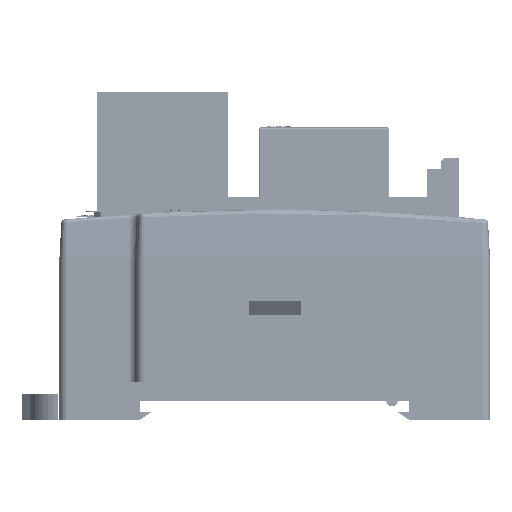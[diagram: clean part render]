
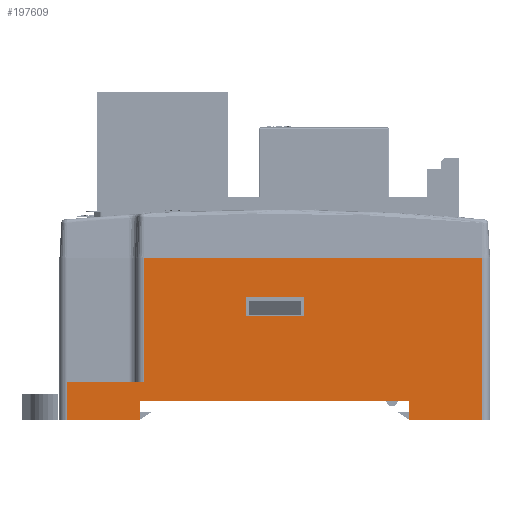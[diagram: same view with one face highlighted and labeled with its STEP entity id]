
A CAD part, front view. The second image highlights one B-rep face of the part: STEP entity #197609.
In plain terms, the highlighted planar face has unit normal (0, -1, 0).
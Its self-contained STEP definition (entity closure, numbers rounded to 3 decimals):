
#14070=DIRECTION('',(0.,0.,-1.));
#14071=VECTOR('',#14070,21.);
#14072=CARTESIAN_POINT('',(27.,-85.,0.));
#14073=LINE('',#14072,#14071);
#14130=DIRECTION('',(0.,0.,-1.));
#14131=VECTOR('',#14130,2.5);
#14132=CARTESIAN_POINT('',(17.5,-85.,-18.5));
#14133=LINE('',#14132,#14131);
#14725=DIRECTION('',(0.,0.,1.));
#14726=VECTOR('',#14725,16.1);
#14727=CARTESIAN_POINT('',(-17.,-85.,-16.1));
#14728=LINE('',#14727,#14726);
#14733=DIRECTION('',(1.,0.,0.));
#14734=VECTOR('',#14733,9.5);
#14735=CARTESIAN_POINT('',(17.5,-85.,-21.));
#14736=LINE('',#14735,#14734);
#14737=DIRECTION('',(1.,0.,0.));
#14738=VECTOR('',#14737,9.5);
#14739=CARTESIAN_POINT('',(-27.,-85.,-21.));
#14740=LINE('',#14739,#14738);
#14745=DIRECTION('',(0.,0.,1.));
#14746=VECTOR('',#14745,2.5);
#14747=CARTESIAN_POINT('',(-3.75,-85.,-7.5));
#14748=LINE('',#14747,#14746);
#14817=DIRECTION('',(1.,0.,0.));
#14818=VECTOR('',#14817,7.5);
#14819=CARTESIAN_POINT('',(-3.75,-85.,-5.));
#14820=LINE('',#14819,#14818);
#14966=DIRECTION('',(0.,0.,-1.));
#14967=VECTOR('',#14966,2.5);
#14968=CARTESIAN_POINT('',(3.75,-85.,-5.));
#14969=LINE('',#14968,#14967);
#14974=DIRECTION('',(-1.,0.,0.));
#14975=VECTOR('',#14974,7.5);
#14976=CARTESIAN_POINT('',(3.75,-85.,-7.5));
#14977=LINE('',#14976,#14975);
#14982=DIRECTION('',(-1.,0.,0.));
#14983=VECTOR('',#14982,35.);
#14984=CARTESIAN_POINT('',(17.5,-85.,-18.5));
#14985=LINE('',#14984,#14983);
#14990=DIRECTION('',(0.,0.,1.));
#14991=VECTOR('',#14990,2.5);
#14992=CARTESIAN_POINT('',(-17.5,-85.,-21.));
#14993=LINE('',#14992,#14991);
#67535=DIRECTION('',(1.,0.,0.));
#67536=VECTOR('',#67535,10.);
#67537=CARTESIAN_POINT('',(-27.,-85.,-16.1));
#67538=LINE('',#67537,#67536);
#67572=DIRECTION('',(0.,0.,1.));
#67573=VECTOR('',#67572,4.9);
#67574=CARTESIAN_POINT('',(-27.,-85.,-21.));
#67575=LINE('',#67574,#67573);
#67665=DIRECTION('',(1.,0.,0.));
#67666=VECTOR('',#67665,44.);
#67667=CARTESIAN_POINT('',(-17.,-85.,0.));
#67668=LINE('',#67667,#67666);
#171263=CARTESIAN_POINT('',(-17.5,-85.,-21.));
#171264=VERTEX_POINT('',#171263);
#171265=CARTESIAN_POINT('',(-27.,-85.,-21.));
#171266=VERTEX_POINT('',#171265);
#171293=CARTESIAN_POINT('',(27.,-85.,-21.));
#171294=VERTEX_POINT('',#171293);
#171295=CARTESIAN_POINT('',(17.5,-85.,-21.));
#171296=VERTEX_POINT('',#171295);
#171365=CARTESIAN_POINT('',(17.5,-85.,-18.5));
#171366=CARTESIAN_POINT('',(-17.5,-85.,-18.5));
#171367=VERTEX_POINT('',#171365);
#171368=VERTEX_POINT('',#171366);
#171369=CARTESIAN_POINT('',(-27.,-85.,-16.1));
#171370=VERTEX_POINT('',#171369);
#171371=CARTESIAN_POINT('',(-17.,-85.,-16.1));
#171372=VERTEX_POINT('',#171371);
#171373=CARTESIAN_POINT('',(-3.75,-85.,-7.5));
#171374=CARTESIAN_POINT('',(-3.75,-85.,-5.));
#171375=VERTEX_POINT('',#171373);
#171376=VERTEX_POINT('',#171374);
#171377=CARTESIAN_POINT('',(3.75,-85.,-7.5));
#171378=VERTEX_POINT('',#171377);
#171379=CARTESIAN_POINT('',(3.75,-85.,-5.));
#171380=VERTEX_POINT('',#171379);
#178588=CARTESIAN_POINT('',(-17.,-85.,0.));
#178589=CARTESIAN_POINT('',(27.,-85.,0.));
#178590=VERTEX_POINT('',#178588);
#178591=VERTEX_POINT('',#178589);
#197576=CARTESIAN_POINT('',(0.,-85.,-10.5));
#197577=DIRECTION('',(0.,1.,0.));
#197578=DIRECTION('',(1.,0.,0.));
#197579=AXIS2_PLACEMENT_3D('',#197576,#197577,#197578);
#197580=PLANE('',#197579);
#197581=ORIENTED_EDGE('',*,*,#196387,.T.);
#197582=ORIENTED_EDGE('',*,*,#196408,.F.);
#197583=ORIENTED_EDGE('',*,*,#196506,.F.);
#197585=ORIENTED_EDGE('',*,*,#197584,.T.);
#197587=ORIENTED_EDGE('',*,*,#197586,.F.);
#197589=ORIENTED_EDGE('',*,*,#197588,.F.);
#197591=ORIENTED_EDGE('',*,*,#197590,.T.);
#197593=ORIENTED_EDGE('',*,*,#197592,.T.);
#197594=ORIENTED_EDGE('',*,*,#197560,.T.);
#197596=ORIENTED_EDGE('',*,*,#197595,.T.);
#197597=EDGE_LOOP('',(#197581,#197582,#197583,#197585,#197587,#197589,#197591,
#197593,#197594,#197596));
#197598=FACE_OUTER_BOUND('',#197597,.F.);
#197600=ORIENTED_EDGE('',*,*,#197599,.F.);
#197602=ORIENTED_EDGE('',*,*,#197601,.F.);
#197604=ORIENTED_EDGE('',*,*,#197603,.F.);
#197606=ORIENTED_EDGE('',*,*,#197605,.F.);
#197607=EDGE_LOOP('',(#197600,#197602,#197604,#197606));
#197608=FACE_BOUND('',#197607,.F.);
#197609=ADVANCED_FACE('',(#197598,#197608),#197580,.F.);
#196387=EDGE_CURVE('',#178591,#171294,#14073,.T.);
#196408=EDGE_CURVE('',#171296,#171294,#14736,.T.);
#196506=EDGE_CURVE('',#171367,#171296,#14133,.T.);
#197560=EDGE_CURVE('',#171372,#178590,#14728,.T.);
#197584=EDGE_CURVE('',#171367,#171368,#14985,.T.);
#197586=EDGE_CURVE('',#171264,#171368,#14993,.T.);
#197588=EDGE_CURVE('',#171266,#171264,#14740,.T.);
#197590=EDGE_CURVE('',#171266,#171370,#67575,.T.);
#197592=EDGE_CURVE('',#171370,#171372,#67538,.T.);
#197595=EDGE_CURVE('',#178590,#178591,#67668,.T.);
#197599=EDGE_CURVE('',#171375,#171376,#14748,.T.);
#197601=EDGE_CURVE('',#171378,#171375,#14977,.T.);
#197603=EDGE_CURVE('',#171380,#171378,#14969,.T.);
#197605=EDGE_CURVE('',#171376,#171380,#14820,.T.);
